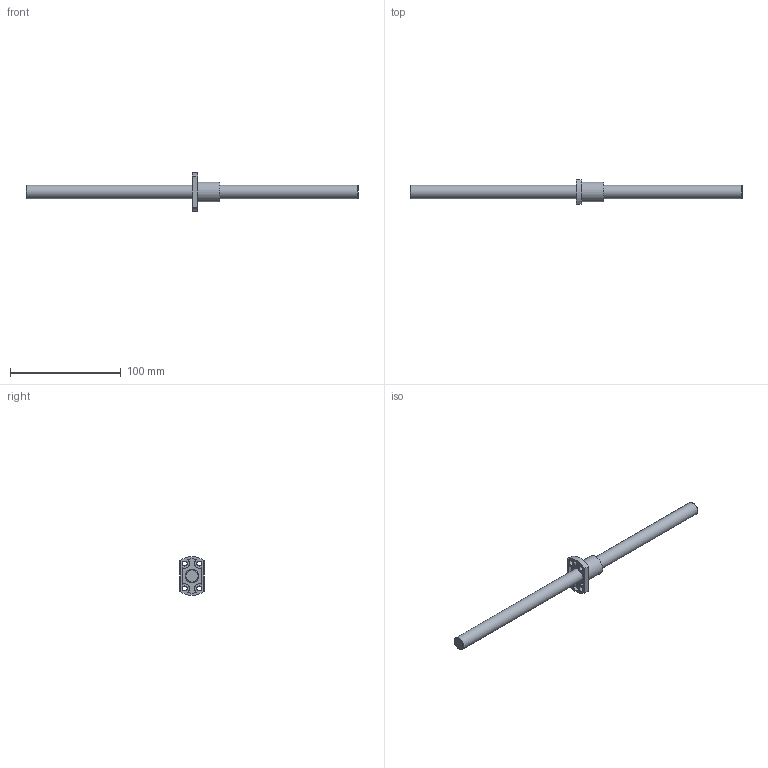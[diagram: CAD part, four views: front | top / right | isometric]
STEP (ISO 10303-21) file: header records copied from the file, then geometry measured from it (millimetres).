
FILE_DESCRIPTION((''),'2;1');
FILE_NAME('D:\製品 (図面)\カタログ用3D\ネジ関連\STEP形式\MSK\MSK12.stp','2010-06-02T14:38:06',('Tsuchiya'),(''),'Autodesk Inventor 10','Autodesk Inventor 10','');
FILE_SCHEMA(('AUTOMOTIVE_DESIGN { 1 0 10303 214 1 1 1 1 }'));
Length unit declared in the file: millimetre
Products named in the file (3): MSK12; MSK121; MSK122
Assembly tree (2 placements, depth 2):
  MSK12
    MSK121
    MSK122
Bounding box: 300 x 22 x 35 mm (x, y, z)
Volume: 38705.9 mm3; surface area: 15635.6 mm2
Topology: 2 solids, 2 shells, 31 faces, 78 edges, 53 vertices
Faces by surface type: cylinder 15, plane 14, cone 2
Full cylindrical faces by diameter (mm): 4.5 x4, 12 x2, 18 x1
Entity records: 962 total; most frequent: DIRECTION 176, CARTESIAN_POINT 148, ORIENTED_EDGE 128, AXIS2_PLACEMENT_3D 76, EDGE_CURVE 64, EDGE_LOOP 52, VERTEX_POINT 48, CIRCLE 32
